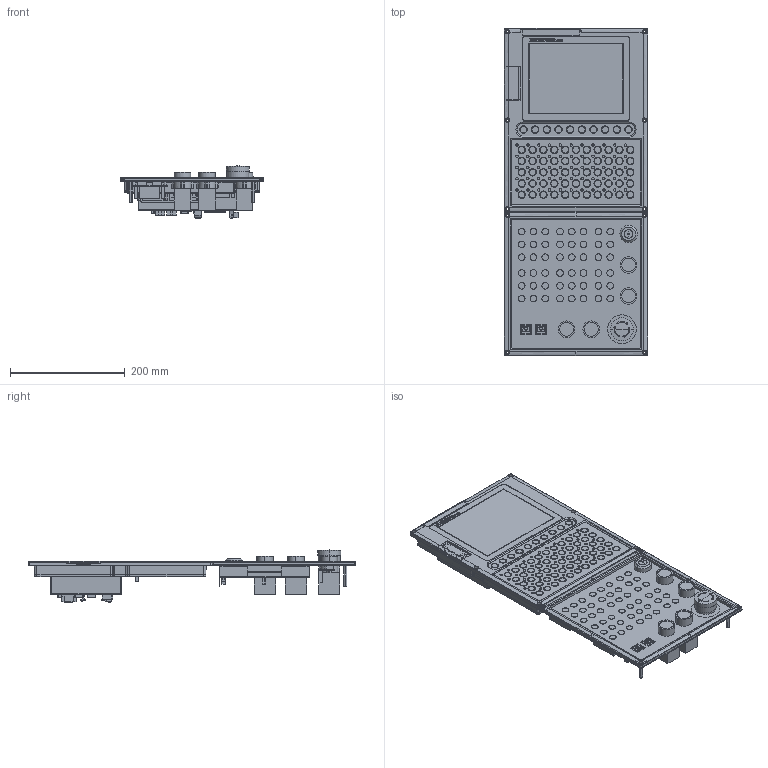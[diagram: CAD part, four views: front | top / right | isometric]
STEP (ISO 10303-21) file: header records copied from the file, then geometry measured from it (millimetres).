
FILE_DESCRIPTION (( 'STEP AP214' ), '1' );
FILE_NAME ('B-8铣床立式+辅助板开窗尺寸.STEP', '2022-12-28T02:39:17', ( 'admin' ), ( '' ), 'SwSTEP 2.0', 'SolidWorks 2018', '' );
FILE_SCHEMA (( 'AUTOMOTIVE_DESIGN' ));
Products named in the file (1): B-8铣床立式+辅助板开窗尺寸
Bounding box: 250 x 570 x 90.6 mm (x, y, z)
Volume: 3382012.3 mm3; surface area: 644527.4 mm2
Topology: 2 solids, 89 shells, 3819 faces, 9474 edges, 6252 vertices
Faces by surface type: plane 2303, cylinder 1155, bspline 271, cone 73, sphere 9, torus 8
Entity records: 126352 total; most frequent: CARTESIAN_POINT 35585, ORIENTED_EDGE 18936, DIRECTION 17966, EDGE_CURVE 9468, VERTEX_POINT 6252, VECTOR 6082, LINE 6082, AXIS2_PLACEMENT_3D 5942
